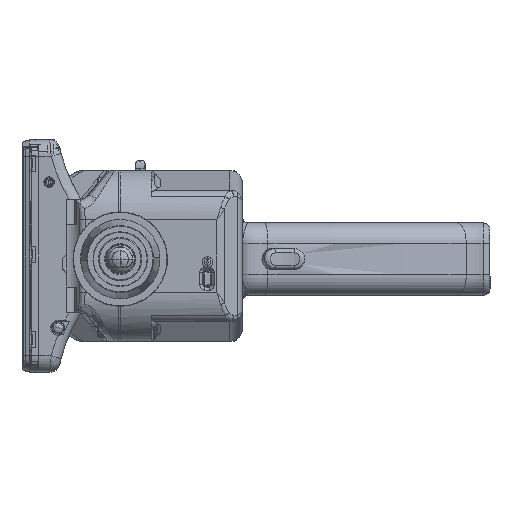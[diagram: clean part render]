
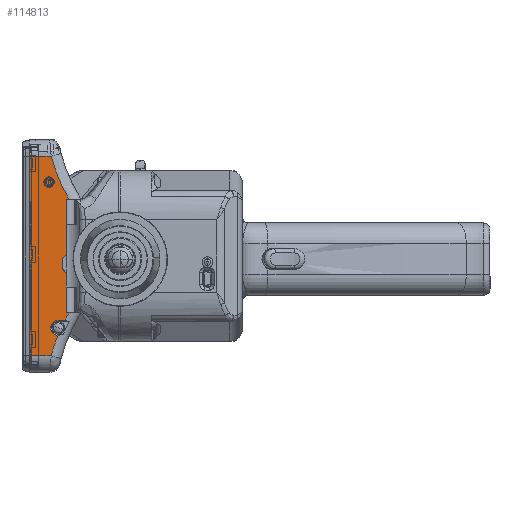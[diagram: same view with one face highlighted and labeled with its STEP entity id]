
A CAD part, left-side view. The second image highlights one B-rep face of the part: STEP entity #114813.
In plain terms, the highlighted planar face has unit normal (-1, 0, 0) as drawn and (0, 0, -1) by its records, which use the part's own axes.
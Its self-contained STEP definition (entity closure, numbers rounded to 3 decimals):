
#362 = DIRECTION ( 'NONE',  ( 0., 0., 1. ) ) ;
#476 = PLANE ( 'NONE',  #110464 ) ;
#1020 = CARTESIAN_POINT ( 'NONE',  ( 48.25, 25., -74. ) ) ;
#2263 = CARTESIAN_POINT ( 'NONE',  ( -48.25, 25., -74. ) ) ;
#2411 = CARTESIAN_POINT ( 'NONE',  ( 1.25, 9., -74. ) ) ;
#2519 = DIRECTION ( 'NONE',  ( -1., 0., 0. ) ) ;
#2965 = ORIENTED_EDGE ( 'NONE', *, *, #119120, .T. ) ;
#3051 = CARTESIAN_POINT ( 'NONE',  ( 27.5, 0., -74. ) ) ;
#3598 = CARTESIAN_POINT ( 'NONE',  ( -29., 44.25, -74. ) ) ;
#3868 = DIRECTION ( 'NONE',  ( 1., 0., 0. ) ) ;
#4023 = EDGE_CURVE ( 'NONE', #52720, #49439, #43759, .T. ) ;
#4064 = ORIENTED_EDGE ( 'NONE', *, *, #4023, .F. ) ;
#4705 = CARTESIAN_POINT ( 'NONE',  ( 8.25, 7., -74. ) ) ;
#5835 = VECTOR ( 'NONE', #65699, 1000. ) ;
#6269 = VERTEX_POINT ( 'NONE', #72419 ) ;
#6891 = CARTESIAN_POINT ( 'NONE',  ( 31.2, 7.842, -74. ) ) ;
#10098 = DIRECTION ( 'NONE',  ( -1., 0., 0. ) ) ;
#10710 = VECTOR ( 'NONE', #117049, 1000. ) ;
#12436 = AXIS2_PLACEMENT_3D ( 'NONE', #57681, #362, #67283 ) ;
#13103 = CIRCLE ( 'NONE', #20964, 85. ) ;
#13105 = EDGE_CURVE ( 'NONE', #86570, #17082, #13103, .T. ) ;
#17082 = VERTEX_POINT ( 'NONE', #40955 ) ;
#17211 = CIRCLE ( 'NONE', #109827, 85. ) ;
#17424 = VECTOR ( 'NONE', #21179, 1000. ) ;
#18141 = LINE ( 'NONE', #103562, #117089 ) ;
#18357 = VERTEX_POINT ( 'NONE', #81326 ) ;
#18580 = ORIENTED_EDGE ( 'NONE', *, *, #107544, .T. ) ;
#19228 = DIRECTION ( 'NONE',  ( -1., 0., 0. ) ) ;
#19694 = VECTOR ( 'NONE', #2519, 1000. ) ;
#20964 = AXIS2_PLACEMENT_3D ( 'NONE', #118672, #61176, #3868 ) ;
#21102 = EDGE_CURVE ( 'NONE', #88752, #63792, #93180, .T. ) ;
#21179 = DIRECTION ( 'NONE',  ( -0.707, 0.707, 0. ) ) ;
#23793 = CARTESIAN_POINT ( 'NONE',  ( 69.929, -67.822, -74. ) ) ;
#23862 = VECTOR ( 'NONE', #41983, 1000. ) ;
#24134 = CARTESIAN_POINT ( 'NONE',  ( -27.5, 7., -74. ) ) ;
#24427 = CARTESIAN_POINT ( 'NONE',  ( 48.25, 14.367, -74. ) ) ;
#25682 = EDGE_CURVE ( 'NONE', #103290, #88752, #65198, .T. ) ;
#26378 = DIRECTION ( 'NONE',  ( 0., 0., -1. ) ) ;
#26530 = VECTOR ( 'NONE', #19228, 1000. ) ;
#26851 = DIRECTION ( 'NONE',  ( 0., -1., 0. ) ) ;
#26945 = VERTEX_POINT ( 'NONE', #24134 ) ;
#27793 = CARTESIAN_POINT ( 'NONE',  ( -48.25, 25., -74. ) ) ;
#29359 = CARTESIAN_POINT ( 'NONE',  ( -48.25, 25., -74. ) ) ;
#29747 = CARTESIAN_POINT ( 'NONE',  ( -48.25, 7., -74. ) ) ;
#32188 = CARTESIAN_POINT ( 'NONE',  ( -15.5, -7.75, -74. ) ) ;
#32352 = ORIENTED_EDGE ( 'NONE', *, *, #116979, .F. ) ;
#32765 = EDGE_CURVE ( 'NONE', #63792, #47643, #99997, .T. ) ;
#33375 = EDGE_CURVE ( 'NONE', #47643, #18357, #116378, .T. ) ;
#33407 = DIRECTION ( 'NONE',  ( 1., 0., 0. ) ) ;
#34282 = VERTEX_POINT ( 'NONE', #37214 ) ;
#35942 = ORIENTED_EDGE ( 'NONE', *, *, #13105, .T. ) ;
#35986 = CARTESIAN_POINT ( 'NONE',  ( -15., 7., -74. ) ) ;
#37214 = CARTESIAN_POINT ( 'NONE',  ( -15., 7., -74. ) ) ;
#38626 = EDGE_CURVE ( 'NONE', #18357, #59037, #47774, .T. ) ;
#38904 = DIRECTION ( 'NONE',  ( 1., 0., 0. ) ) ;
#39141 = DIRECTION ( 'NONE',  ( 0., 1., 0. ) ) ;
#40955 = CARTESIAN_POINT ( 'NONE',  ( -48.25, 14.367, -74. ) ) ;
#41022 = FACE_OUTER_BOUND ( 'NONE', #61517, .T. ) ;
#41590 = ORIENTED_EDGE ( 'NONE', *, *, #117252, .T. ) ;
#41809 = DIRECTION ( 'NONE',  ( -0.707, -0.707, 0. ) ) ;
#41983 = DIRECTION ( 'NONE',  ( -1., 0., 0. ) ) ;
#43759 = CIRCLE ( 'NONE', #56361, 3.55 ) ;
#45690 = ORIENTED_EDGE ( 'NONE', *, *, #58882, .T. ) ;
#47607 = ORIENTED_EDGE ( 'NONE', *, *, #21102, .T. ) ;
#47643 = VERTEX_POINT ( 'NONE', #4705 ) ;
#47774 = LINE ( 'NONE', #71134, #70258 ) ;
#48946 = ORIENTED_EDGE ( 'NONE', *, *, #38626, .T. ) ;
#49439 = VERTEX_POINT ( 'NONE', #119373 ) ;
#50567 = CARTESIAN_POINT ( 'NONE',  ( -27.5, 5.831, -74. ) ) ;
#50841 = LINE ( 'NONE', #32188, #101901 ) ;
#52720 = VERTEX_POINT ( 'NONE', #78062 ) ;
#56361 = AXIS2_PLACEMENT_3D ( 'NONE', #83749, #26378, #93455 ) ;
#57681 = CARTESIAN_POINT ( 'NONE',  ( 69.929, -67.822, -74. ) ) ;
#57881 = CARTESIAN_POINT ( 'NONE',  ( -48.25, 25., -74. ) ) ;
#58285 = VERTEX_POINT ( 'NONE', #24427 ) ;
#58882 = EDGE_CURVE ( 'NONE', #58285, #49439, #76428, .T. ) ;
#59037 = VERTEX_POINT ( 'NONE', #2411 ) ;
#59682 = CARTESIAN_POINT ( 'NONE',  ( 27.5, 5.831, -74. ) ) ;
#59836 = CARTESIAN_POINT ( 'NONE',  ( -48.25, 7., -74. ) ) ;
#61176 = DIRECTION ( 'NONE',  ( 0., 0., 1. ) ) ;
#61517 = EDGE_LOOP ( 'NONE', ( #45690, #4064, #88060, #2965, #82781, #47607, #70170, #78354, #48946, #83331, #18580, #95482, #86525, #35942, #101357, #32352, #41590 ) ) ;
#63487 = LINE ( 'NONE', #29747, #117554 ) ;
#63792 = VERTEX_POINT ( 'NONE', #79776 ) ;
#65198 = LINE ( 'NONE', #3051, #84758 ) ;
#65699 = DIRECTION ( 'NONE',  ( 0., -1., 0. ) ) ;
#67283 = DIRECTION ( 'NONE',  ( 1., 0., 0. ) ) ;
#70170 = ORIENTED_EDGE ( 'NONE', *, *, #32765, .T. ) ;
#70258 = VECTOR ( 'NONE', #80786, 1000. ) ;
#71134 = CARTESIAN_POINT ( 'NONE',  ( -48.25, 9., -74. ) ) ;
#72419 = CARTESIAN_POINT ( 'NONE',  ( -0.75, 7., -74. ) ) ;
#72694 = EDGE_CURVE ( 'NONE', #26945, #86570, #104819, .T. ) ;
#73511 = EDGE_CURVE ( 'NONE', #81764, #52720, #115167, .T. ) ;
#76428 = CIRCLE ( 'NONE', #12436, 85. ) ;
#78062 = CARTESIAN_POINT ( 'NONE',  ( 31.2, 11., -74. ) ) ;
#78354 = ORIENTED_EDGE ( 'NONE', *, *, #33375, .T. ) ;
#79776 = CARTESIAN_POINT ( 'NONE',  ( 15., 7., -74. ) ) ;
#80786 = DIRECTION ( 'NONE',  ( -1., 0., 0. ) ) ;
#81326 = CARTESIAN_POINT ( 'NONE',  ( 6.25, 9., -74. ) ) ;
#81764 = VERTEX_POINT ( 'NONE', #6891 ) ;
#82781 = ORIENTED_EDGE ( 'NONE', *, *, #25682, .T. ) ;
#83331 = ORIENTED_EDGE ( 'NONE', *, *, #97118, .T. ) ;
#83749 = CARTESIAN_POINT ( 'NONE',  ( 34.75, 11., -74. ) ) ;
#84758 = VECTOR ( 'NONE', #98577, 1000. ) ;
#86525 = ORIENTED_EDGE ( 'NONE', *, *, #72694, .T. ) ;
#86570 = VERTEX_POINT ( 'NONE', #50567 ) ;
#87000 = CARTESIAN_POINT ( 'NONE',  ( 31.2, 11., -74. ) ) ;
#87480 = VECTOR ( 'NONE', #114560, 1000. ) ;
#88060 = ORIENTED_EDGE ( 'NONE', *, *, #73511, .F. ) ;
#88752 = VERTEX_POINT ( 'NONE', #105319 ) ;
#90219 = CARTESIAN_POINT ( 'NONE',  ( -15., 7., -74. ) ) ;
#90858 = DIRECTION ( 'NONE',  ( 0., 0., 1. ) ) ;
#91389 = VERTEX_POINT ( 'NONE', #1020 ) ;
#93180 = LINE ( 'NONE', #59836, #19694 ) ;
#93455 = DIRECTION ( 'NONE',  ( -1., 0., 0. ) ) ;
#94707 = CARTESIAN_POINT ( 'NONE',  ( -27.5, 0., -74. ) ) ;
#95482 = ORIENTED_EDGE ( 'NONE', *, *, #114848, .T. ) ;
#96171 = LINE ( 'NONE', #2263, #10710 ) ;
#96392 = DIRECTION ( 'NONE',  ( 0., 0., 1. ) ) ;
#97118 = EDGE_CURVE ( 'NONE', #59037, #6269, #50841, .T. ) ;
#98577 = DIRECTION ( 'NONE',  ( 0., 1., 0. ) ) ;
#99997 = LINE ( 'NONE', #35986, #26530 ) ;
#100327 = LINE ( 'NONE', #90219, #23862 ) ;
#101357 = ORIENTED_EDGE ( 'NONE', *, *, #114283, .F. ) ;
#101901 = VECTOR ( 'NONE', #41809, 1000. ) ;
#102319 = VERTEX_POINT ( 'NONE', #57881 ) ;
#103290 = VERTEX_POINT ( 'NONE', #59682 ) ;
#103562 = CARTESIAN_POINT ( 'NONE',  ( 48.25, 25., -74. ) ) ;
#104819 = LINE ( 'NONE', #94707, #5835 ) ;
#105319 = CARTESIAN_POINT ( 'NONE',  ( 27.5, 7., -74. ) ) ;
#107544 = EDGE_CURVE ( 'NONE', #6269, #34282, #100327, .T. ) ;
#109827 = AXIS2_PLACEMENT_3D ( 'NONE', #23793, #90858, #33407 ) ;
#110464 = AXIS2_PLACEMENT_3D ( 'NONE', #29359, #96392, #38904 ) ;
#112167 = VECTOR ( 'NONE', #39141, 1000. ) ;
#113022 = LINE ( 'NONE', #27793, #87480 ) ;
#114283 = EDGE_CURVE ( 'NONE', #102319, #17082, #113022, .T. ) ;
#114560 = DIRECTION ( 'NONE',  ( 0., -1., 0. ) ) ;
#114813 = ADVANCED_FACE ( 'NONE', ( #41022 ), #476, .F. ) ;
#114848 = EDGE_CURVE ( 'NONE', #34282, #26945, #63487, .T. ) ;
#115167 = LINE ( 'NONE', #87000, #112167 ) ;
#116378 = LINE ( 'NONE', #3598, #17424 ) ;
#116979 = EDGE_CURVE ( 'NONE', #91389, #102319, #96171, .T. ) ;
#117049 = DIRECTION ( 'NONE',  ( -1., 0., 0. ) ) ;
#117089 = VECTOR ( 'NONE', #26851, 1000. ) ;
#117252 = EDGE_CURVE ( 'NONE', #91389, #58285, #18141, .T. ) ;
#117554 = VECTOR ( 'NONE', #10098, 1000. ) ;
#118672 = CARTESIAN_POINT ( 'NONE',  ( -69.929, -67.822, -74. ) ) ;
#119120 = EDGE_CURVE ( 'NONE', #81764, #103290, #17211, .T. ) ;
#119373 = CARTESIAN_POINT ( 'NONE',  ( 38.299, 11.074, -74. ) ) ;
